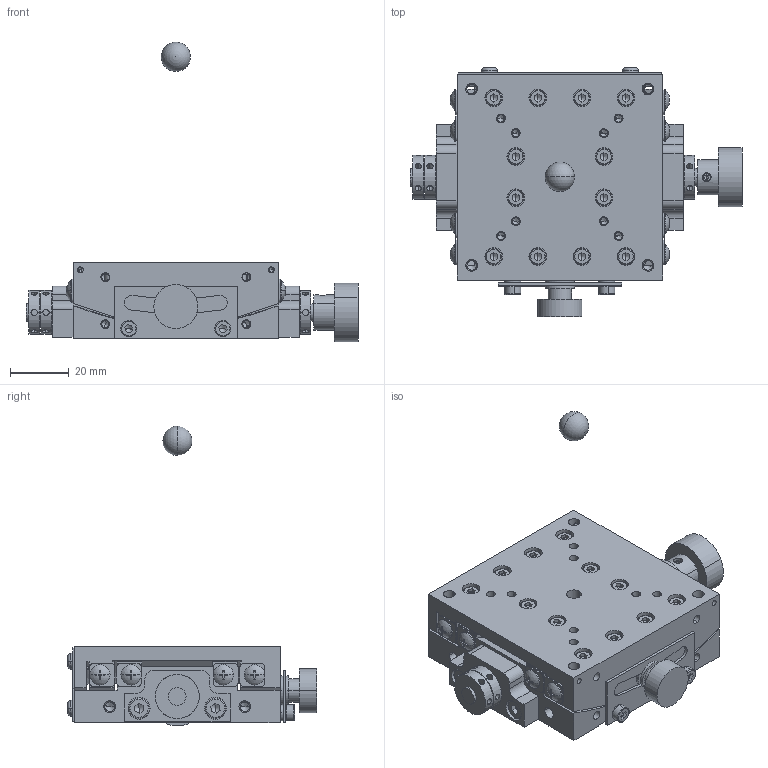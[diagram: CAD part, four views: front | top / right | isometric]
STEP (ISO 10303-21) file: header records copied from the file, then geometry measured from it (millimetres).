
FILE_DESCRIPTION (( 'STEP AP203' ), '1' );
FILE_NAME ('SH07A-RT-R.STEP', '2015-05-12T03:49:50', ( '' ), ( '' ), 'SwSTEP 2.0', 'SolidWorks 2011', '' );
FILE_SCHEMA (( 'CONFIG_CONTROL_DESIGN' ));
Products named in the file (4): SH07A-RT-R; base-32; table-22; rotation-center-25
Assembly tree (3 placements, depth 2):
  SH07A-RT-R
    base-32
    table-22
    rotation-center-25
Bounding box: 113 x 84.96 x 102 mm (x, y, z)
Volume: 124148.4 mm3; surface area: 52266.1 mm2
Topology: 3 solids, 49 shells, 2316 faces, 5584 edges, 3410 vertices
Faces by surface type: plane 1170, cylinder 739, cone 255, torus 120, sphere 26, bspline 6
Entity records: 71562 total; most frequent: CARTESIAN_POINT 16724, DIRECTION 11863, ORIENTED_EDGE 10914, EDGE_CURVE 5457, AXIS2_PLACEMENT_3D 4413, VERTEX_POINT 3407, LINE 3037, VECTOR 3037
